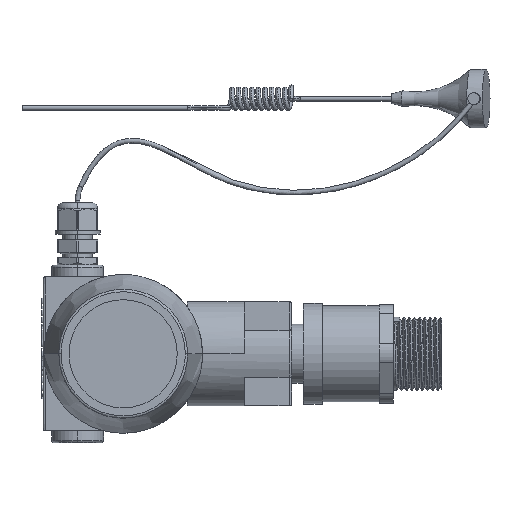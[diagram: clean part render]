
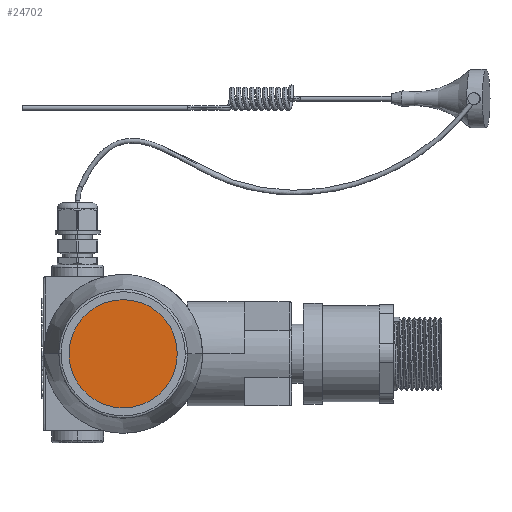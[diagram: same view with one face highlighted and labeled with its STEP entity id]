
A CAD part, left-side view. The second image highlights one B-rep face of the part: STEP entity #24702.
In plain terms, the highlighted planar face has unit normal (-1, 0, 0).
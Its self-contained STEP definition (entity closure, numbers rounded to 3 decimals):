
#8952=CARTESIAN_POINT('',(-69.5,71.141,0.));
#8953=DIRECTION('',(-1.,0.,0.));
#8954=DIRECTION('',(0.,-1.,0.));
#8955=AXIS2_PLACEMENT_3D('',#8952,#8953,#8954);
#8957=CARTESIAN_POINT('',(-69.5,71.141,0.));
#8958=DIRECTION('',(-1.,0.,0.));
#8959=DIRECTION('',(0.,1.,0.));
#8960=AXIS2_PLACEMENT_3D('',#8957,#8958,#8959);
#9207=CARTESIAN_POINT('',(-69.5,48.295,0.));
#9208=CARTESIAN_POINT('',(-69.5,93.987,0.));
#9209=VERTEX_POINT('',#9207);
#9210=VERTEX_POINT('',#9208);
#24693=CARTESIAN_POINT('',(-69.5,0.,0.));
#24694=DIRECTION('',(-1.,0.,0.));
#24695=DIRECTION('',(0.,-1.,0.));
#24696=AXIS2_PLACEMENT_3D('',#24693,#24694,#24695);
#24697=PLANE('',#24696);
#24698=ORIENTED_EDGE('',*,*,#24673,.F.);
#24699=ORIENTED_EDGE('',*,*,#24687,.F.);
#24700=EDGE_LOOP('',(#24698,#24699));
#24701=FACE_OUTER_BOUND('',#24700,.F.);
#24702=ADVANCED_FACE('',(#24701),#24697,.T.);
#8956=CIRCLE('',#8955,22.846);
#8961=CIRCLE('',#8960,22.846);
#24673=EDGE_CURVE('',#9209,#9210,#8956,.T.);
#24687=EDGE_CURVE('',#9210,#9209,#8961,.T.);
